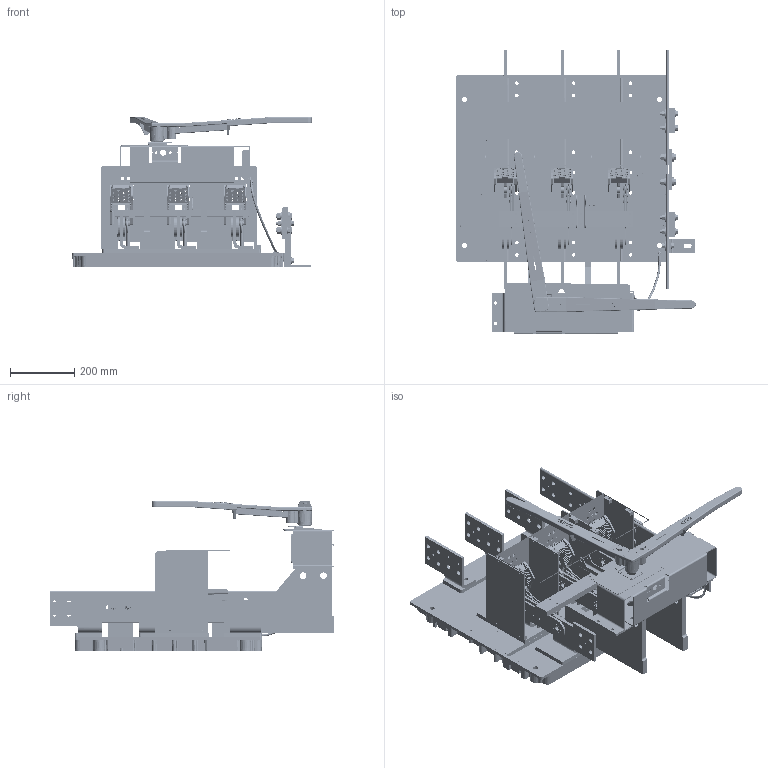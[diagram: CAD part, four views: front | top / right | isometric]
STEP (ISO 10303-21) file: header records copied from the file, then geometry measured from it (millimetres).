
FILE_DESCRIPTION(/* description */ (''),/* implementation_level */ '2;1');
FILE_NAME(/* name */ 'H:\switches\3d-templates\catalog-switches-iges-files\CATALOG-VLB449N.stp',/* time_stamp */ '2022-03-15T10:57:08-05:00',/* author */ ('MKingston'),/* organization */ (''),/* preprocessor_version */ 'ST-DEVELOPER v18.1',/* originating_system */ 'Autodesk Inventor 2022',/* authorisation */ '');
FILE_SCHEMA (('AUTOMOTIVE_DESIGN { 1 0 10303 214 3 1 1 }'));
Products named in the file (68): CATALOG-VLB349; 277-bf; 668-CB; 668-DB; 256-d; 256-c; vlb-interpole-right-side-assy; vlb-interpole-assy; 256-b; 178-b; 178-c; catalog-56-qj-arcchute-assy; 363-da; 363-da_MIR; 50-QLX; 50-QRX; 56-QJS; 57-QJSB; 57-QJST; catalog-vl369-blade-assy; 67-AL; 67-AR; 67-fc3; 67-gc3; 67-M; 67-j; ANSI/ASME B18.7 - T 0.252 x 17/32; ANSI/ASME B18.7 - T 0.188 x 17/32; 668-EB; 235-b; 230-a; 246-f; 820-bw1; 820-fw3; 221-RP,R3; 1600-VLB-NEUTRAL-NO-GFI; 677-c; 676-t; 675-a; 675-df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
Assembly tree (144 placements, depth 4):
  CATALOG-VLB349
    277-bf
    668-CB  x3
    668-DB  x3
    256-d
    256-c
    vlb-interpole-right-side-assy  x2
      256-b
      178-b
      178-c
    vlb-interpole-assy  x2
      256-b
      178-b
      178-c
    catalog-56-qj-arcchute-assy  x3
      363-da
      363-da_MIR
      50-QLX
      50-QRX
      56-QJS
      57-QJSB
      57-QJST
    catalog-vl369-blade-assy  x3
      67-AL
      67-AR
      67-fc3
      67-gc3
      67-j
      67-M
      ANSI/ASME B18.7 - T 0.252 x 17/32
      ANSI/ASME B18.7 - T 0.188 x 17/32
    668-EB  x3
    235-b
    230-a
    246-f  x2
    820-bw1
    820-fw3
    221-RP,R3
    1600-VLB-NEUTRAL-NO-GFI
      677-c
      676-t  x2
      675-a  x2
      675-df  x2
      678-r
      Bolted Connection
        ASTM F436 - 1/2, CW  x8
        ANSI B18.2.1 - 1/2-13 UNC - 1.75, HCSI  x4
        ASME B18.21.1 - 1/2, RHSLW  x4
        AS 2465 - 1/2  UNC  x4
      Bolted Connection_1
        ASTM F436 - 3/8, CW  x4
        ANSI B18.2.1 - 3/8-16 UNC - 2, HCSI  x4
        ANSI B18.22.1 - 3/8 - wide - Type B  x4
        ANSI B18.21.1 - 0.375  x4
        ANSI B18.2.2 - 3/8 - 16, HNI  x4
      Bolted Connection_2
        ASTM F436 - 3/8, CW
        ANSI B18.2.1 - 3/8-16 UNC - 1.25, HCSI
        ANSI B18.22.1 - 3/8 - wide - Type B
        ANSI B18.21.1 - 0.375
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Bounding box: 747.67 x 890.27 x 467.84 mm (x, y, z)
Volume: 19489922.1 mm3; surface area: 4440240 mm2
Topology: 181 solids, 183 shells, 6081 faces, 15346 edges, 9946 vertices
Faces by surface type: plane 3079, cylinder 1587, cone 827, bspline 455, torus 119, sphere 14
Full cylindrical faces by diameter (mm): 1.702 x8, 3.175 x4, 3.454 x4, 3.683 x8, 3.759 x12, 3.962 x5, 4.166 x2, 4.305 x42, 4.496 x24, 4.762 x4, 4.775 x11, 4.801 x8, 4.902 x14, 4.915 x24, 4.978 x3, 5.08 x2, 5.537 x2, 5.556 x3, 5.791 x6, 6.35 x43, 6.401 x9, 6.528 x70, 7.144 x12, 7.798 x11, 7.938 x21, 8.077 x3, 8.331 x2, 8.687 x2, 8.731 x2, 9.525 x11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
Entity records: 112669 total; most frequent: CARTESIAN_POINT 28726, ORIENTED_EDGE 16862, DIRECTION 16805, EDGE_CURVE 8442, AXIS2_PLACEMENT_3D 5990, VERTEX_POINT 5495, LINE 4825, VECTOR 4825
